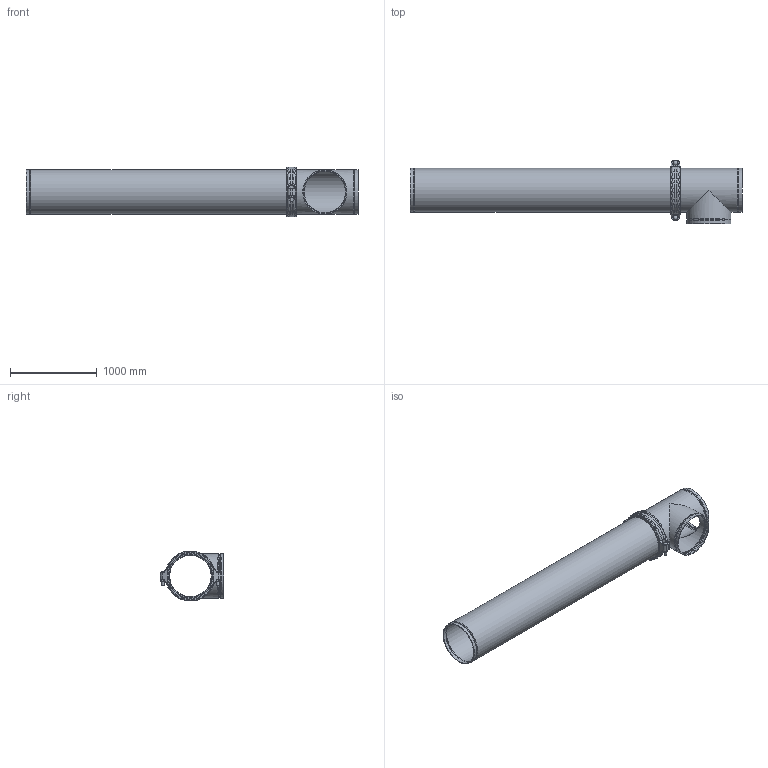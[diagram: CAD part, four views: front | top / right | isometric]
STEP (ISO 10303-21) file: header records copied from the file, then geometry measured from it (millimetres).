
FILE_DESCRIPTION(/* description */ ('VIC AGS LONG RUN FITTING No WR25 (AGS)','CAx-IF Rec.Pracs.---Representation and Presentation of Product Manufacturing Information (PMI)---4.0---2014-10-13'),/* implementation_level */ '2;1');
FILE_NAME(/* name */ 'C:\Users\kkamble\AppData\Roaming\Autodesk\ApplicationPlugins\Back Up\Victaulic_AGS_Long Run Fittings_No WR25 (AGS)\Victaulic_AGS_Long Run Fittings_No WR25 (AGS)_20 (500).stp',/* time_stamp */ '2020-10-07T03:12:36+06:00',/* author */ ('kkamble'),/* organization */ ('Victaulic'),/* preprocessor_version */ 'ST-DEVELOPER v17.2',/* originating_system */ 'Autodesk Inventor 2019',/* authorisation */ '');
FILE_SCHEMA (('AP242_MANAGED_MODEL_BASED_3D_ENGINEERING_MIM_LF { 1 0 10303 442 1 1 4 }'));
Length unit declared in the file: inch
Products named in the file (4): WR25-20.0; WR25-20.0_1; W77-20.0; W20-20.0
Assembly tree (3 placements, depth 2):
  WR25-20.0
    WR25-20.0_1
    W77-20.0
    W20-20.0
Bounding box: 3817.87 x 725.55 x 574.7 mm (x, y, z)
Volume: 64626297.5 mm3; surface area: 12896585.3 mm2
Topology: 3 solids, 5 shells, 308 faces, 917 edges, 633 vertices
Faces by surface type: cylinder 129, plane 108, torus 56, cone 13, sphere 2
Full cylindrical faces by diameter (mm): 28.575 x4, 47.625 x2, 476.25 x3, 482.6 x1, 488.95 x6, 495.3 x5, 508 x10
Entity records: 13326 total; most frequent: CARTESIAN_POINT 4465, ORIENTED_EDGE 1834, DIRECTION 1764, EDGE_CURVE 917, AXIS2_PLACEMENT_3D 724, VERTEX_POINT 633, CIRCLE 399, EDGE_LOOP 334
